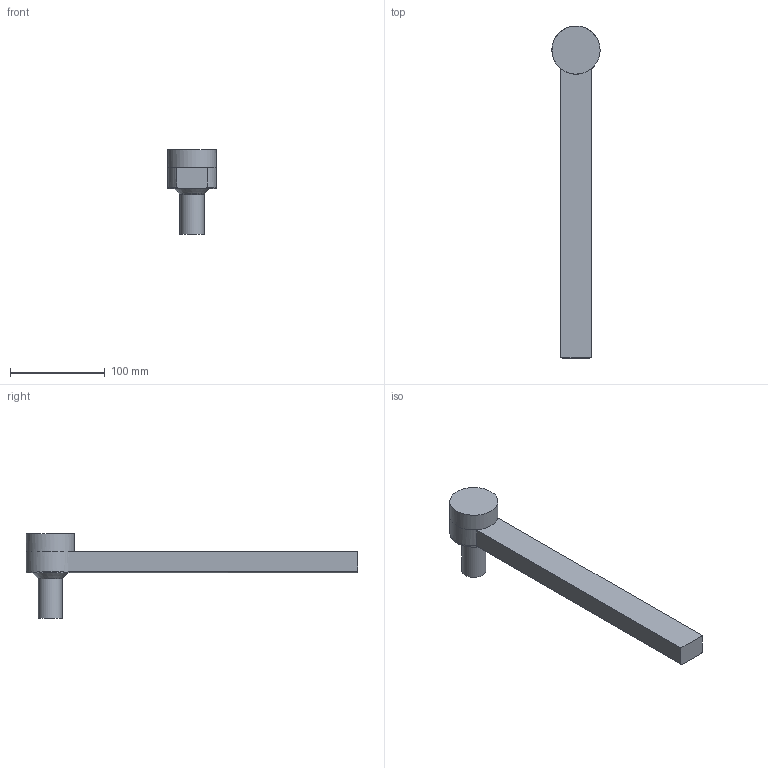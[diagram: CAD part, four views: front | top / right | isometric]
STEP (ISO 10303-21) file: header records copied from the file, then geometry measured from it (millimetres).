
FILE_DESCRIPTION(/* description */ (''),/* implementation_level */ '2;1');
FILE_NAME(/* name */ 'B0271TRUPas.stp',/* time_stamp */ '2019-10-02T10:27:38-04:00',/* author */ (''),/* organization */ (''),/* preprocessor_version */ 'ST-DEVELOPER v16',/* originating_system */ 'SIEMENS PLM Software NX 11.0',/* authorisation */ '');
FILE_SCHEMA (('AUTOMOTIVE_DESIGN { 1 0 10303 214 3 1 1 1 }'));
Length unit declared in the file: inch
Products named in the file (3): B02XX_SubSolid; B0271TRUPd; B0271TRUPas
Assembly tree (2 placements, depth 2):
  B0271TRUPas
    B0271TRUPd
    B02XX_SubSolid
Bounding box: 50.91 x 350.87 x 89.69 mm (x, y, z)
Volume: 385843.8 mm3; surface area: 59908.2 mm2
Topology: 2 solids, 3 shells, 32 faces, 68 edges, 43 vertices
Faces by surface type: plane 13, cylinder 9, cone 5, torus 3, sphere 1, revolution 1
Full cylindrical faces by diameter (mm): 8.731 x2, 25.4 x2, 50.927 x1
Entity records: 834 total; most frequent: CARTESIAN_POINT 161, DIRECTION 134, ORIENTED_EDGE 92, AXIS2_PLACEMENT_3D 58, EDGE_LOOP 50, EDGE_CURVE 46, FACE_BOUND 41, VERTEX_POINT 38
